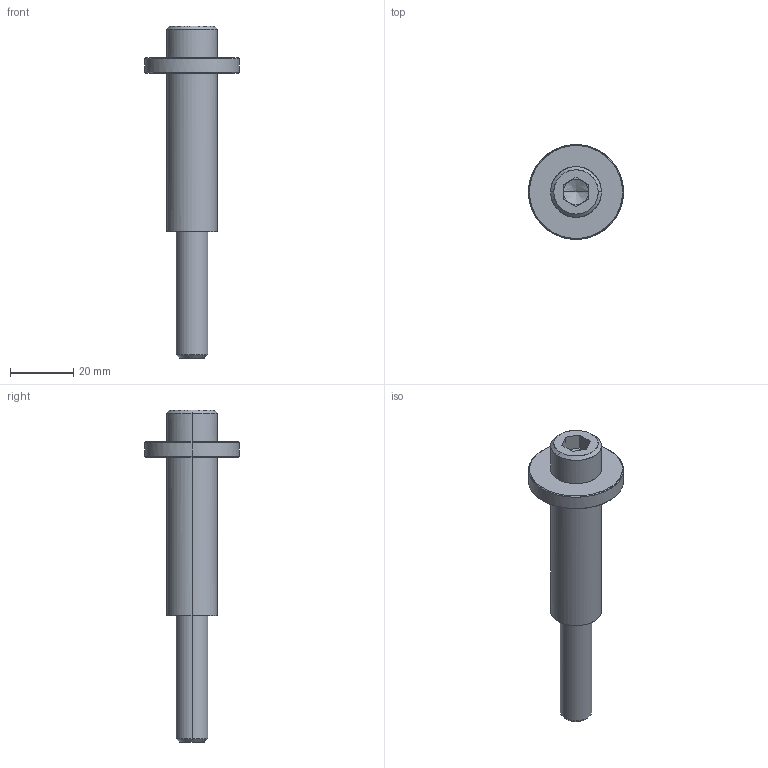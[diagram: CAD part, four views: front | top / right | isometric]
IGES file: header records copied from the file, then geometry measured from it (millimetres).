
Global section: file name: E:\UnigraphicsGraphicData\MISUMI_PRESS-PARTS\IGES\3d_sbrh16-50-95-30_05050_r00.igs; native system: NX V5.0; preprocessor: UGS NX IGES V5.0; author: MISUMI; date: 20110105.162429; units: millimetre
Bounding box: 30 x 29.96 x 105 mm (x, y, z)
Surface area: 10133.1 mm2 (no closed solid volume)
Topology: 0 solids, 0 shells, 45 faces, 274 edges, 272 vertices
Faces by surface type: bspline 45
